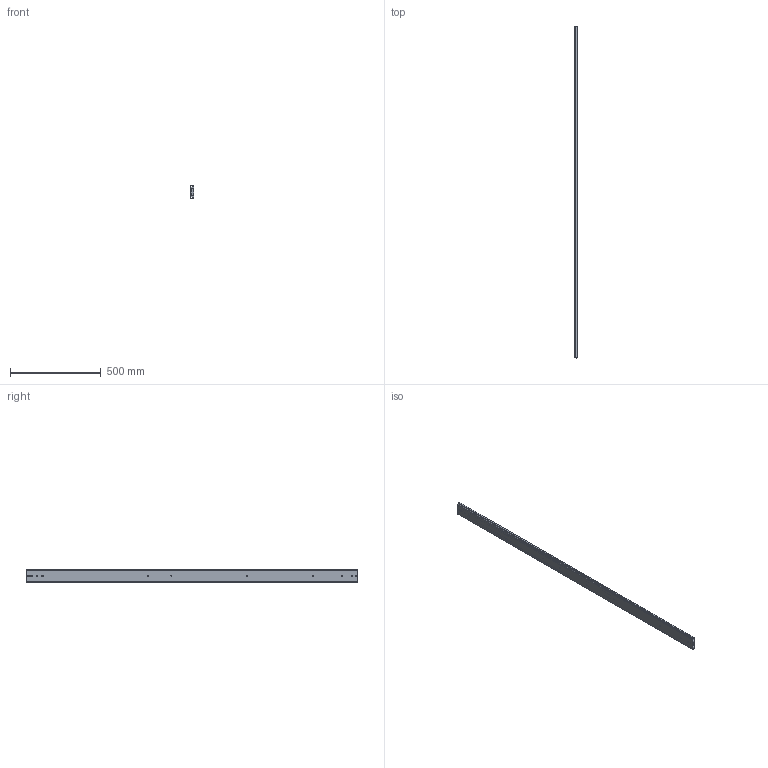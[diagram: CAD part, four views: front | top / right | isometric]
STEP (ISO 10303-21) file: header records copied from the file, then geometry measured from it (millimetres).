
FILE_DESCRIPTION(/* description */ ('Unknown'),/* implementation_level */ '2;1');
FILE_NAME(/* name */ '76J01-72 close',/* time_stamp */ '2024-07-30T15:48:46+08:00',/* author */ ('Unknown'),/* organization */ ('Unknown'),/* preprocessor_version */ 'ST-DEVELOPER v18.104',/* originating_system */ 'Solid Edge',/* authorisation */ 'Unknown');
FILE_SCHEMA (('AUTOMOTIVE_DESIGN {1 0 10303 214 3 1 1}'));
Length unit declared in the file: millimetre
Products named in the file (4): 76J01-72 close; 76J01 72 inch 內; 76J01 72 吋
Assembly tree (3 placements, depth 2):
  76J01-72 close
    76J01 72 inch 內
    76J01 72 吋
    76J01 72 吋
Bounding box: 19.3 x 1828.8 x 76.76 mm (x, y, z)
Volume: 1448788.7 mm3; surface area: 900005.5 mm2
Topology: 3 solids, 3 shells, 196 faces, 606 edges, 410 vertices
Faces by surface type: plane 104, cylinder 92
Full cylindrical faces by diameter (mm): 5.2 x16, 7.1 x2
Entity records: 7179 total; most frequent: CARTESIAN_POINT 1168, DIRECTION 1152, ORIENTED_EDGE 1140, EDGE_CURVE 570, VERTEX_POINT 392, LINE 384, VECTOR 384, AXIS2_PLACEMENT_3D 384
